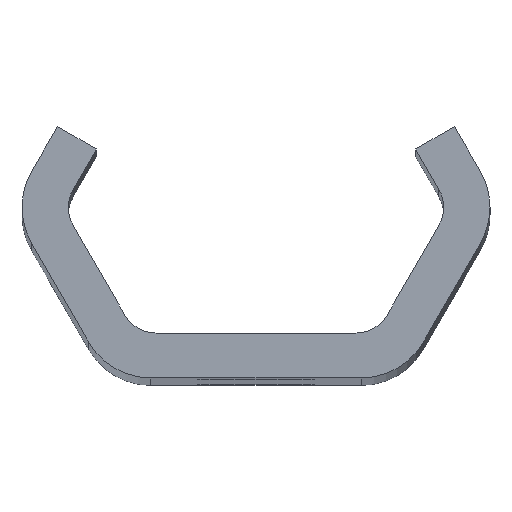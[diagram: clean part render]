
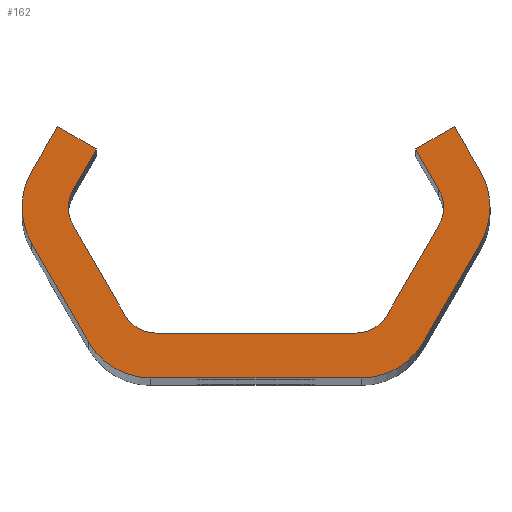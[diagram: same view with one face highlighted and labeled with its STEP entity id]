
A CAD part, top view. The second image highlights one B-rep face of the part: STEP entity #162.
In plain terms, the highlighted planar face has unit normal (0, 0, 1).
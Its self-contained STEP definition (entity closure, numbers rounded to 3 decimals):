
#162=ADVANCED_FACE('NONE',(#394),#395,.F.);
#394=FACE_OUTER_BOUND('',#1030,.T.);
#395=PLANE('',#1031);
#1030=EDGE_LOOP('',(#2004,#2005,#2006,#2007,#2008,#2009,#2010,#2011,#2012,#2013,#2014,#2015,#2016,#2017,#2018,#2019,#2020,#2021,#2022,#2023,#2024,#2025,#2026,#2027));
#1031=AXIS2_PLACEMENT_3D('',#2028,#2029,#2030);
#2004=ORIENTED_EDGE('',*,*,#2699,.T.);
#2005=ORIENTED_EDGE('',*,*,#2716,.T.);
#2006=ORIENTED_EDGE('',*,*,#2701,.T.);
#2007=ORIENTED_EDGE('',*,*,#2717,.T.);
#2008=ORIENTED_EDGE('',*,*,#2710,.F.);
#2009=ORIENTED_EDGE('',*,*,#2718,.T.);
#2010=ORIENTED_EDGE('',*,*,#2573,.T.);
#2011=ORIENTED_EDGE('',*,*,#2713,.F.);
#2012=ORIENTED_EDGE('',*,*,#2625,.F.);
#2013=ORIENTED_EDGE('',*,*,#2629,.F.);
#2014=ORIENTED_EDGE('',*,*,#2607,.T.);
#2015=ORIENTED_EDGE('',*,*,#2719,.T.);
#2016=ORIENTED_EDGE('',*,*,#2633,.F.);
#2017=ORIENTED_EDGE('',*,*,#2720,.T.);
#2018=ORIENTED_EDGE('',*,*,#2638,.F.);
#2019=ORIENTED_EDGE('',*,*,#2721,.T.);
#2020=ORIENTED_EDGE('',*,*,#2682,.T.);
#2021=ORIENTED_EDGE('',*,*,#2722,.T.);
#2022=ORIENTED_EDGE('',*,*,#2568,.T.);
#2023=ORIENTED_EDGE('',*,*,#2685,.T.);
#2024=ORIENTED_EDGE('',*,*,#2691,.T.);
#2025=ORIENTED_EDGE('',*,*,#2695,.T.);
#2026=ORIENTED_EDGE('',*,*,#2723,.T.);
#2027=ORIENTED_EDGE('',*,*,#2610,.T.);
#2028=CARTESIAN_POINT('',(0.0,0.0,240.0));
#2029=DIRECTION('',(0.0,0.0,-1.0));
#2030=DIRECTION('',(0.0,-1.0,0.0));
#2568=EDGE_CURVE('NONE',#2890,#2894,#2896,.T.);
#2573=EDGE_CURVE('NONE',#2899,#2903,#2905,.T.);
#2607=EDGE_CURVE('NONE',#2966,#2964,#2967,.T.);
#2610=EDGE_CURVE('NONE',#2970,#2971,#2972,.T.);
#2625=EDGE_CURVE('NONE',#2994,#2996,#2997,.T.);
#2629=EDGE_CURVE('NONE',#2966,#2994,#3001,.T.);
#2633=EDGE_CURVE('NONE',#3006,#3008,#3009,.T.);
#2638=EDGE_CURVE('NONE',#3015,#3017,#3018,.T.);
#2682=EDGE_CURVE('NONE',#3100,#3098,#3101,.T.);
#2685=EDGE_CURVE('NONE',#2894,#3104,#3105,.T.);
#2691=EDGE_CURVE('NONE',#3104,#3112,#3114,.T.);
#2695=EDGE_CURVE('NONE',#3112,#3118,#3120,.T.);
#2699=EDGE_CURVE('NONE',#2971,#3124,#3126,.T.);
#2701=EDGE_CURVE('NONE',#3128,#3129,#3130,.T.);
#2710=EDGE_CURVE('NONE',#3142,#3144,#3145,.T.);
#2713=EDGE_CURVE('NONE',#2996,#2903,#3148,.T.);
#2716=EDGE_CURVE('NONE',#3124,#3128,#3151,.T.);
#2717=EDGE_CURVE('NONE',#3129,#3144,#3152,.T.);
#2718=EDGE_CURVE('NONE',#3142,#2899,#3153,.T.);
#2719=EDGE_CURVE('NONE',#2964,#3008,#3154,.T.);
#2720=EDGE_CURVE('NONE',#3006,#3017,#3155,.T.);
#2721=EDGE_CURVE('NONE',#3015,#3100,#3156,.T.);
#2722=EDGE_CURVE('NONE',#3098,#2890,#3157,.T.);
#2723=EDGE_CURVE('NONE',#3118,#2970,#3158,.T.);
#2890=VERTEX_POINT('',#3370);
#2894=VERTEX_POINT('NONE',#3375);
#2896=CIRCLE('',#3378,2.0);
#2899=VERTEX_POINT('',#3381);
#2903=VERTEX_POINT('NONE',#3386);
#2905=CIRCLE('',#3389,4.0);
#2964=VERTEX_POINT('NONE',#3802);
#2966=VERTEX_POINT('NONE',#3805);
#2967=CIRCLE('',#3806,2.0);
#2970=VERTEX_POINT('NONE',#3810);
#2971=VERTEX_POINT('NONE',#3811);
#2972=CIRCLE('',#3812,4.0);
#2994=VERTEX_POINT('NONE',#3839);
#2996=VERTEX_POINT('NONE',#3842);
#2997=LINE('',#3843,#3844);
#3001=LINE('',#3850,#3851);
#3006=VERTEX_POINT('NONE',#3857);
#3008=VERTEX_POINT('NONE',#3860);
#3009=LINE('',#3861,#3862);
#3015=VERTEX_POINT('NONE',#3870);
#3017=VERTEX_POINT('NONE',#3873);
#3018=LINE('',#3874,#3875);
#3098=VERTEX_POINT('NONE',#4157);
#3100=VERTEX_POINT('NONE',#4160);
#3101=LINE('',#4161,#4162);
#3104=VERTEX_POINT('NONE',#4166);
#3105=LINE('',#4167,#4168);
#3112=VERTEX_POINT('NONE',#4178);
#3114=LINE('',#4181,#4182);
#3118=VERTEX_POINT('NONE',#4187);
#3120=LINE('',#4190,#4191);
#3124=VERTEX_POINT('NONE',#4196);
#3126=LINE('',#4199,#4200);
#3128=VERTEX_POINT('NONE',#4202);
#3129=VERTEX_POINT('NONE',#4203);
#3130=LINE('',#4204,#4205);
#3142=VERTEX_POINT('NONE',#4221);
#3144=VERTEX_POINT('NONE',#4224);
#3145=LINE('',#4225,#4226);
#3148=LINE('',#4230,#4231);
#3151=CIRCLE('',#4235,4.0);
#3152=CIRCLE('',#4236,4.0);
#3153=CIRCLE('',#4237,4.0);
#3154=CIRCLE('',#4238,2.0);
#3155=CIRCLE('',#4239,2.0);
#3156=CIRCLE('',#4240,2.0);
#3157=CIRCLE('',#4241,2.0);
#3158=CIRCLE('',#4242,4.0);
#3370=CARTESIAN_POINT('',(-10.455,0.,240.0));
#3375=CARTESIAN_POINT('',(-10.187,1.,240.0));
#3378=AXIS2_PLACEMENT_3D('',#4907,#4908,#4909);
#3381=CARTESIAN_POINT('',(13.032,0.,240.0));
#3386=CARTESIAN_POINT('',(12.496,2.,240.0));
#3389=AXIS2_PLACEMENT_3D('',#4915,#4916,#4917);
#3802=CARTESIAN_POINT('',(10.455,0.,240.0));
#3805=CARTESIAN_POINT('',(10.187,1.,240.0));
#3806=AXIS2_PLACEMENT_3D('',#4946,#4947,#4948);
#3810=CARTESIAN_POINT('',(-13.032,0.,240.0));
#3811=CARTESIAN_POINT('',(-12.496,-2.,240.0));
#3812=AXIS2_PLACEMENT_3D('',#4950,#4951,#4952);
#3839=CARTESIAN_POINT('',(8.888,3.25,240.0));
#3842=CARTESIAN_POINT('',(11.053,4.5,240.0));
#3843=CARTESIAN_POINT('',(8.888,3.25,240.0));
#3844=VECTOR('',#4974,1000.0);
#3850=CARTESIAN_POINT('',(10.764,0.,240.0));
#3851=VECTOR('',#4977,1000.0);
#3857=CARTESIAN_POINT('',(7.3,-6.,240.0));
#3860=CARTESIAN_POINT('',(10.187,-1.,240.0));
#3861=CARTESIAN_POINT('',(6.723,-7.0,240.0));
#3862=VECTOR('',#4980,1000.0);
#3870=CARTESIAN_POINT('',(-5.568,-7.0,240.0));
#3873=CARTESIAN_POINT('',(5.568,-7.0,240.0));
#3874=CARTESIAN_POINT('',(-6.723,-7.0,240.0));
#3875=VECTOR('',#4984,1000.0);
#4157=CARTESIAN_POINT('',(-10.187,-1.,240.0));
#4160=CARTESIAN_POINT('',(-7.3,-6.,240.0));
#4161=CARTESIAN_POINT('',(-6.723,-7.0,240.0));
#4162=VECTOR('',#5027,1000.0);
#4166=CARTESIAN_POINT('',(-8.888,3.25,240.0));
#4167=CARTESIAN_POINT('',(-10.764,0.0,240.0));
#4168=VECTOR('',#5029,1000.0);
#4178=CARTESIAN_POINT('',(-11.053,4.5,240.0));
#4181=CARTESIAN_POINT('',(-8.888,3.25,240.0));
#4182=VECTOR('',#5034,1000.0);
#4187=CARTESIAN_POINT('',(-12.496,2.0,240.0));
#4190=CARTESIAN_POINT('',(-11.053,4.5,240.0));
#4191=VECTOR('',#5037,1000.0);
#4196=CARTESIAN_POINT('',(-9.321,-7.5,240.0));
#4199=CARTESIAN_POINT('',(-13.651,0.0,240.0));
#4200=VECTOR('',#5040,1000.0);
#4202=CARTESIAN_POINT('',(-5.857,-9.5,240.0));
#4203=CARTESIAN_POINT('',(5.857,-9.5,240.0));
#4204=CARTESIAN_POINT('',(-8.166,-9.5,240.0));
#4205=VECTOR('',#5041,1000.0);
#4221=CARTESIAN_POINT('',(12.496,-2.,240.0));
#4224=CARTESIAN_POINT('',(9.321,-7.5,240.0));
#4225=CARTESIAN_POINT('',(13.651,0.,240.0));
#4226=VECTOR('',#5053,1000.0);
#4230=CARTESIAN_POINT('',(11.053,4.5,240.0));
#4231=VECTOR('',#5055,1000.0);
#4235=AXIS2_PLACEMENT_3D('',#5057,#5058,#5059);
#4236=AXIS2_PLACEMENT_3D('',#5060,#5061,#5062);
#4237=AXIS2_PLACEMENT_3D('',#5063,#5064,#5065);
#4238=AXIS2_PLACEMENT_3D('',#5066,#5067,#5068);
#4239=AXIS2_PLACEMENT_3D('',#5069,#5070,#5071);
#4240=AXIS2_PLACEMENT_3D('',#5072,#5073,#5074);
#4241=AXIS2_PLACEMENT_3D('',#5075,#5076,#5077);
#4242=AXIS2_PLACEMENT_3D('',#5078,#5079,#5080);
#4907=CARTESIAN_POINT('',(-8.455,0.,240.0));
#4908=DIRECTION('',(0.0,0.0,-1.0));
#4909=DIRECTION('',(-1.0,0.0,0.0));
#4915=CARTESIAN_POINT('',(9.032,0.,240.0));
#4916=DIRECTION('',(0.0,0.0,1.0));
#4917=DIRECTION('',(-1.0,0.0,0.0));
#4946=CARTESIAN_POINT('',(8.455,0.,240.0));
#4947=DIRECTION('',(0.0,0.0,-1.0));
#4948=DIRECTION('',(-1.0,0.0,0.0));
#4950=CARTESIAN_POINT('',(-9.032,0.,240.0));
#4951=DIRECTION('',(0.0,0.0,1.0));
#4952=DIRECTION('',(-1.0,0.0,0.0));
#4974=DIRECTION('',(0.866,0.5,0.0));
#4977=DIRECTION('',(-0.5,0.866,0.0));
#4980=DIRECTION('',(0.5,0.866,0.0));
#4984=DIRECTION('',(1.0,0.,0.0));
#5027=DIRECTION('',(-0.5,0.866,0.0));
#5029=DIRECTION('',(0.5,0.866,0.0));
#5034=DIRECTION('',(-0.866,0.5,0.0));
#5037=DIRECTION('',(-0.5,-0.866,0.0));
#5040=DIRECTION('',(0.5,-0.866,0.0));
#5041=DIRECTION('',(1.0,0.,0.0));
#5053=DIRECTION('',(-0.5,-0.866,0.0));
#5055=DIRECTION('',(0.5,-0.866,0.0));
#5057=CARTESIAN_POINT('',(-5.857,-5.5,240.0));
#5058=DIRECTION('',(0.0,0.0,1.0));
#5059=DIRECTION('',(-1.0,0.0,0.0));
#5060=CARTESIAN_POINT('',(5.857,-5.5,240.0));
#5061=DIRECTION('',(0.0,0.0,1.0));
#5062=DIRECTION('',(-1.0,0.0,0.0));
#5063=CARTESIAN_POINT('',(9.032,0.,240.0));
#5064=DIRECTION('',(0.0,0.0,1.0));
#5065=DIRECTION('',(-1.0,0.0,0.0));
#5066=CARTESIAN_POINT('',(8.455,0.,240.0));
#5067=DIRECTION('',(0.0,0.0,-1.0));
#5068=DIRECTION('',(-1.0,0.0,0.0));
#5069=CARTESIAN_POINT('',(5.568,-5.0,240.0));
#5070=DIRECTION('',(0.0,0.0,-1.0));
#5071=DIRECTION('',(-1.0,0.0,0.0));
#5072=CARTESIAN_POINT('',(-5.568,-5.0,240.0));
#5073=DIRECTION('',(0.0,0.0,-1.0));
#5074=DIRECTION('',(-1.0,0.0,0.0));
#5075=CARTESIAN_POINT('',(-8.455,0.,240.0));
#5076=DIRECTION('',(0.0,0.0,-1.0));
#5077=DIRECTION('',(-1.0,0.0,0.0));
#5078=CARTESIAN_POINT('',(-9.032,0.,240.0));
#5079=DIRECTION('',(0.0,0.0,1.0));
#5080=DIRECTION('',(-1.0,0.,0.0));
